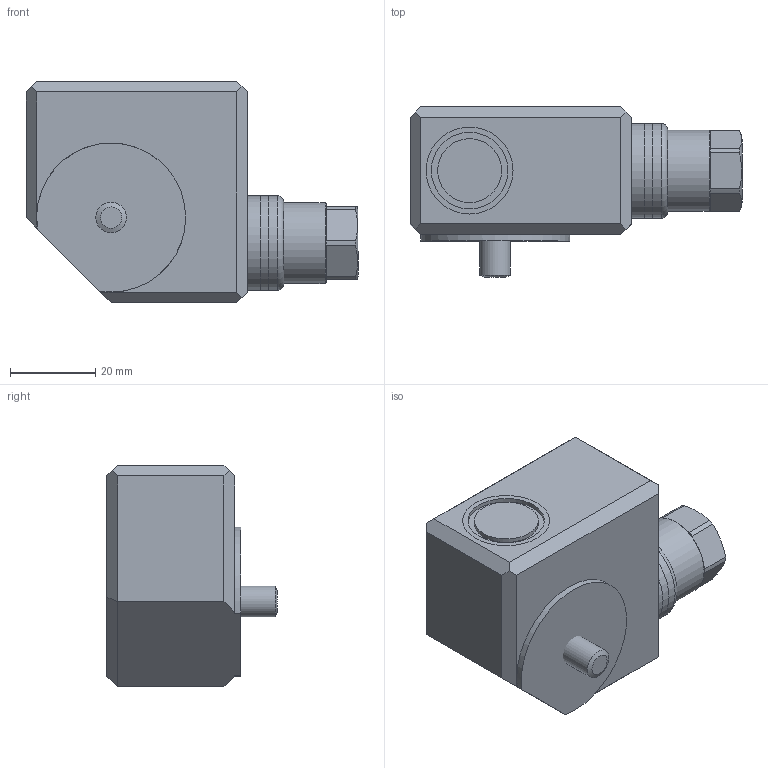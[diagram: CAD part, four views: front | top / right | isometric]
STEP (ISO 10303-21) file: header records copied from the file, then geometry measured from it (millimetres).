
FILE_DESCRIPTION(/* description */ (''),/* implementation_level */ '2;1');
FILE_NAME(/* name */ 'Z:\Engineering\Drawings\3D Library\Assemblies\Website\420 Triaxial Velocity\HS-473XXX4306.stp',/* time_stamp */ '2023-05-09T21:41:54+01:00',/* author */ ('Ricardo.Peneda'),/* organization */ (''),/* preprocessor_version */ 'ST-DEVELOPER v18.1',/* originating_system */ 'Autodesk Inventor 2021',/* authorisation */ '');
FILE_SCHEMA (('AUTOMOTIVE_DESIGN { 1 0 10303 214 3 1 1 }'));
Length unit declared in the file: inch
Products named in the file (1): HS-473XXX4306_Shrinkwrap_1
Bounding box: 77.98 x 40 x 52 mm (x, y, z)
Volume: 57143.4 mm3; surface area: 23270.3 mm2
Topology: 6 solids, 6 shells, 105 faces, 267 edges, 194 vertices
Faces by surface type: plane 64, cylinder 33, cone 6, torus 2
Full cylindrical faces by diameter (mm): 4.5 x1, 6 x1, 7.2 x1, 9 x1, 10 x1, 11.647 x1, 12 x1, 13.882 x1, 15 x4, 18 x3, 19 x1, 19.95 x1, 20 x3, 20.4 x4, 22.2 x2
Entity records: 3476 total; most frequent: DIRECTION 611, CARTESIAN_POINT 597, ORIENTED_EDGE 534, EDGE_CURVE 267, AXIS2_PLACEMENT_3D 244, VERTEX_POINT 194, CIRCLE 138, EDGE_LOOP 131
